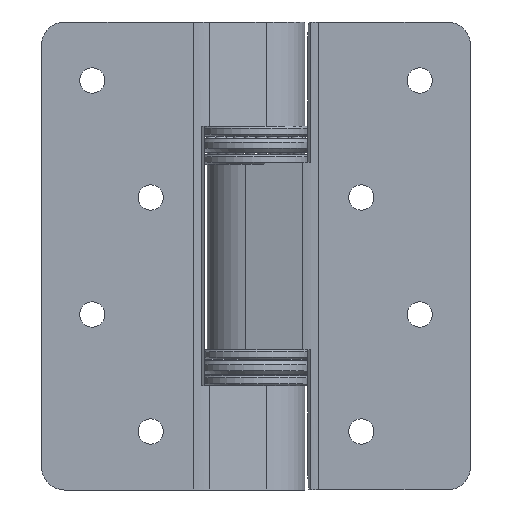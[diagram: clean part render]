
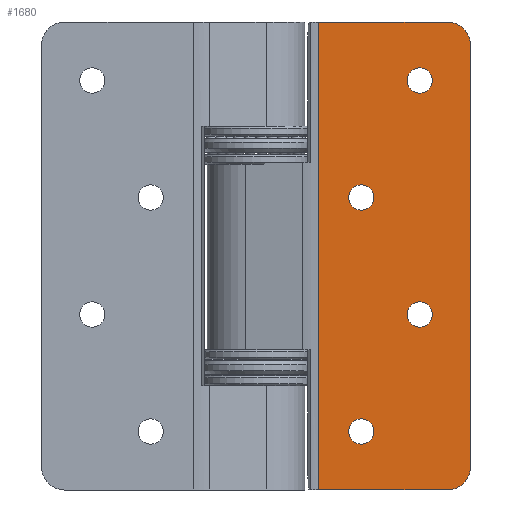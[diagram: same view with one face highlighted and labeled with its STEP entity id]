
A CAD part, front view. The second image highlights one B-rep face of the part: STEP entity #1680.
In plain terms, the highlighted planar face has unit normal (0, -1, 0).
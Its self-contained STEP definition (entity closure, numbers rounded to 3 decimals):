
#111=FACE_BOUND('',#547,.T.);
#112=FACE_BOUND('',#548,.T.);
#113=FACE_BOUND('',#549,.T.);
#114=FACE_BOUND('',#550,.T.);
#169=PLANE('',#1836);
#212=LINE('',#2767,#283);
#214=LINE('',#2801,#285);
#224=LINE('',#2829,#295);
#225=LINE('',#2831,#296);
#283=VECTOR('',#2124,32.898);
#285=VECTOR('',#2166,120.);
#295=VECTOR('',#2198,108.);
#296=VECTOR('',#2201,32.898);
#413=FACE_OUTER_BOUND('',#546,.T.);
#546=EDGE_LOOP('',(#1316,#1317,#1318,#1319,#1320,#1321));
#547=EDGE_LOOP('',(#1322));
#548=EDGE_LOOP('',(#1323));
#549=EDGE_LOOP('',(#1324));
#550=EDGE_LOOP('',(#1325));
#700=CIRCLE('',#1793,6.);
#701=CIRCLE('',#1795,6.);
#708=CIRCLE('',#1809,3.25);
#710=CIRCLE('',#1813,3.25);
#712=CIRCLE('',#1817,3.25);
#714=CIRCLE('',#1821,3.25);
#844=VERTEX_POINT('',#2724);
#845=VERTEX_POINT('',#2725);
#846=VERTEX_POINT('',#2730);
#847=VERTEX_POINT('',#2731);
#860=VERTEX_POINT('',#2766);
#862=VERTEX_POINT('',#2773);
#864=VERTEX_POINT('',#2779);
#866=VERTEX_POINT('',#2785);
#868=VERTEX_POINT('',#2791);
#872=VERTEX_POINT('',#2800);
#1001=EDGE_CURVE('',#844,#845,#700,.T.);
#1004=EDGE_CURVE('',#846,#847,#701,.T.);
#1022=EDGE_CURVE('',#847,#860,#212,.T.);
#1025=EDGE_CURVE('',#862,#862,#708,.T.);
#1027=EDGE_CURVE('',#864,#864,#710,.T.);
#1029=EDGE_CURVE('',#866,#866,#712,.T.);
#1031=EDGE_CURVE('',#868,#868,#714,.T.);
#1035=EDGE_CURVE('',#860,#872,#214,.T.);
#1050=EDGE_CURVE('',#846,#845,#224,.T.);
#1051=EDGE_CURVE('',#872,#844,#225,.T.);
#1316=ORIENTED_EDGE('',*,*,#1001,.F.);
#1317=ORIENTED_EDGE('',*,*,#1051,.F.);
#1318=ORIENTED_EDGE('',*,*,#1035,.F.);
#1319=ORIENTED_EDGE('',*,*,#1022,.F.);
#1320=ORIENTED_EDGE('',*,*,#1004,.F.);
#1321=ORIENTED_EDGE('',*,*,#1050,.T.);
#1322=ORIENTED_EDGE('',*,*,#1025,.T.);
#1323=ORIENTED_EDGE('',*,*,#1027,.T.);
#1324=ORIENTED_EDGE('',*,*,#1029,.T.);
#1325=ORIENTED_EDGE('',*,*,#1031,.T.);
#1680=ADVANCED_FACE('',(#413,#111,#112,#113,#114),#169,.T.);
#1793=AXIS2_PLACEMENT_3D('',#2726,#2086,#2087);
#1795=AXIS2_PLACEMENT_3D('',#2732,#2092,#2093);
#1809=AXIS2_PLACEMENT_3D('',#2774,#2133,#2134);
#1813=AXIS2_PLACEMENT_3D('',#2780,#2141,#2142);
#1817=AXIS2_PLACEMENT_3D('',#2786,#2149,#2150);
#1821=AXIS2_PLACEMENT_3D('',#2792,#2157,#2158);
#1836=AXIS2_PLACEMENT_3D('',#2830,#2199,#2200);
#2086=DIRECTION('center_axis',(0.,1.,0.));
#2087=DIRECTION('ref_axis',(0.707,0.,0.707));
#2092=DIRECTION('center_axis',(0.,1.,0.));
#2093=DIRECTION('ref_axis',(0.707,0.,-0.707));
#2124=DIRECTION('',(-1.,0.,0.));
#2133=DIRECTION('center_axis',(0.,1.,0.));
#2134=DIRECTION('ref_axis',(1.,0.,0.));
#2141=DIRECTION('center_axis',(0.,1.,0.));
#2142=DIRECTION('ref_axis',(1.,0.,0.));
#2149=DIRECTION('center_axis',(0.,1.,0.));
#2150=DIRECTION('ref_axis',(1.,0.,0.));
#2157=DIRECTION('center_axis',(0.,1.,0.));
#2158=DIRECTION('ref_axis',(1.,0.,0.));
#2166=DIRECTION('',(0.,0.,1.));
#2198=DIRECTION('',(0.,0.,1.));
#2199=DIRECTION('center_axis',(0.,-1.,0.));
#2200=DIRECTION('ref_axis',(1.,0.,0.));
#2201=DIRECTION('',(1.,0.,0.));
#2724=CARTESIAN_POINT('',(49.,-15.755,60.));
#2725=CARTESIAN_POINT('',(55.,-15.755,54.));
#2726=CARTESIAN_POINT('Origin',(49.,-15.755,54.));
#2730=CARTESIAN_POINT('',(55.,-15.755,-54.));
#2731=CARTESIAN_POINT('',(49.,-15.755,-60.));
#2732=CARTESIAN_POINT('Origin',(49.,-15.755,-54.));
#2766=CARTESIAN_POINT('',(16.102,-15.755,-60.));
#2767=CARTESIAN_POINT('',(14.,-15.755,-60.));
#2773=CARTESIAN_POINT('',(38.75,-15.755,-15.));
#2774=CARTESIAN_POINT('Origin',(42.,-15.755,-15.));
#2779=CARTESIAN_POINT('',(23.75,-15.755,-45.));
#2780=CARTESIAN_POINT('Origin',(27.,-15.755,-45.));
#2785=CARTESIAN_POINT('',(23.75,-15.755,15.));
#2786=CARTESIAN_POINT('Origin',(27.,-15.755,15.));
#2791=CARTESIAN_POINT('',(38.75,-15.755,45.));
#2792=CARTESIAN_POINT('Origin',(42.,-15.755,45.));
#2800=CARTESIAN_POINT('',(16.102,-15.755,60.));
#2801=CARTESIAN_POINT('',(16.102,-15.755,0.));
#2829=CARTESIAN_POINT('',(55.,-15.755,0.));
#2830=CARTESIAN_POINT('Origin',(14.,-15.755,0.));
#2831=CARTESIAN_POINT('',(14.,-15.755,60.));
